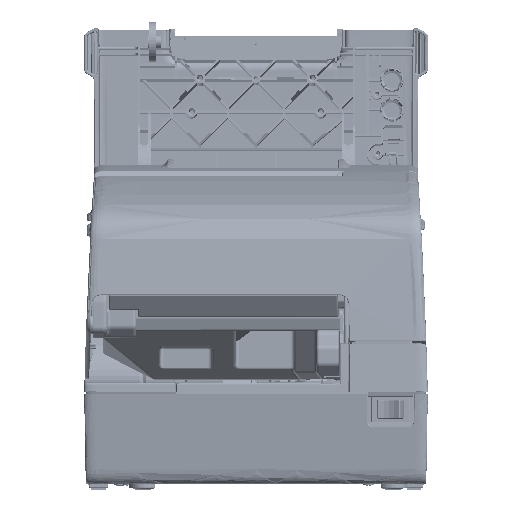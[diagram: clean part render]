
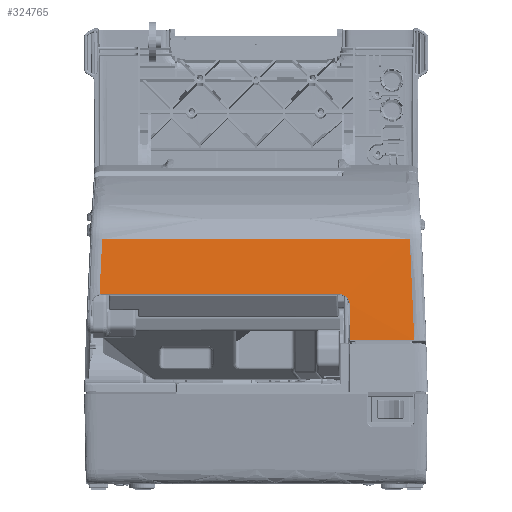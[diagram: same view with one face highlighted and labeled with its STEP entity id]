
A CAD part, top view. The second image highlights one B-rep face of the part: STEP entity #324765.
In plain terms, the highlighted cylindrical face has radius 850 mm (diameter 1700 mm), a partial arc.
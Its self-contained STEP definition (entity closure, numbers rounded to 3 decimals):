
#304977=DIRECTION('',(1.,0.,0.));
#304978=VECTOR('',#304977,34.667);
#304979=CARTESIAN_POINT('',(5.791,-51.41,
99.417));
#304980=LINE('',#304979,#304978);
#304981=CARTESIAN_POINT('',(5.791,-51.41,
99.417));
#304982=CARTESIAN_POINT('',(5.753,-49.235,
99.244));
#304983=CARTESIAN_POINT('',(5.678,-44.886,
98.882));
#304984=CARTESIAN_POINT('',(5.564,-38.367,
98.289));
#304985=CARTESIAN_POINT('',(5.488,-34.024,
97.86));
#304986=CARTESIAN_POINT('',(5.45,-31.853,
97.637));
#304988=CARTESIAN_POINT('',(5.45,-31.853,
97.637));
#304989=CARTESIAN_POINT('',(5.449,-31.767,
97.628));
#304990=CARTESIAN_POINT('',(5.442,-31.594,
97.611));
#304991=CARTESIAN_POINT('',(5.419,-31.335,
97.584));
#304992=CARTESIAN_POINT('',(5.384,-31.077,
97.557));
#304993=CARTESIAN_POINT('',(5.336,-30.821,
97.531));
#304994=CARTESIAN_POINT('',(5.277,-30.568,
97.504));
#304995=CARTESIAN_POINT('',(5.206,-30.318,
97.478));
#304996=CARTESIAN_POINT('',(5.123,-30.071,
97.453));
#304997=CARTESIAN_POINT('',(5.029,-29.829,
97.427));
#304998=CARTESIAN_POINT('',(4.923,-29.592,
97.402));
#304999=CARTESIAN_POINT('',(4.806,-29.36,
97.378));
#305000=CARTESIAN_POINT('',(4.679,-29.133,
97.354));
#305001=CARTESIAN_POINT('',(4.541,-28.913,
97.33));
#305002=CARTESIAN_POINT('',(4.393,-28.7,
97.308));
#305003=CARTESIAN_POINT('',(4.235,-28.494,
97.286));
#305004=CARTESIAN_POINT('',(4.068,-28.296,
97.265));
#305005=CARTESIAN_POINT('',(3.891,-28.107,
97.244));
#305006=CARTESIAN_POINT('',(3.706,-27.925,
97.225));
#305007=CARTESIAN_POINT('',(3.513,-27.753,
97.206));
#305008=CARTESIAN_POINT('',(3.312,-27.59,
97.189));
#305009=CARTESIAN_POINT('',(3.103,-27.437,
97.172));
#305010=CARTESIAN_POINT('',(2.888,-27.293,
97.157));
#305011=CARTESIAN_POINT('',(2.666,-27.161,
97.142));
#305012=CARTESIAN_POINT('',(2.438,-27.038,
97.129));
#305013=CARTESIAN_POINT('',(2.205,-26.927,
97.117));
#305014=CARTESIAN_POINT('',(1.967,-26.827,
97.106));
#305015=CARTESIAN_POINT('',(1.724,-26.738,
97.097));
#305016=CARTESIAN_POINT('',(1.478,-26.66,
97.088));
#305017=CARTESIAN_POINT('',(1.229,-26.594,
97.081));
#305018=CARTESIAN_POINT('',(0.976,-26.54,
97.075));
#305019=CARTESIAN_POINT('',(0.721,-26.498,
97.07));
#305020=CARTESIAN_POINT('',(0.465,-26.468,
97.067));
#305021=CARTESIAN_POINT('',(0.208,-26.45,
97.065));
#305022=CARTESIAN_POINT('',(0.037,-26.446,
97.065));
#305023=CARTESIAN_POINT('',(-0.049,-26.446,
97.065));
#305025=DIRECTION('',(-1.,0.,0.));
#305026=VECTOR('',#305025,129.068);
#305027=CARTESIAN_POINT('',(-0.049,-26.446,
97.065));
#305028=LINE('',#305027,#305026);
#305029=CARTESIAN_POINT('',(-129.117,-26.446,
97.065));
#305030=CARTESIAN_POINT('',(-129.182,-26.446,
97.065));
#305031=CARTESIAN_POINT('',(-129.31,-26.448,
97.065));
#305032=CARTESIAN_POINT('',(-129.503,-26.458,
97.066));
#305033=CARTESIAN_POINT('',(-129.694,-26.475,
97.068));
#305034=CARTESIAN_POINT('',(-129.822,-26.491,
97.07));
#305035=CARTESIAN_POINT('',(-129.885,-26.5,
97.071));
#305037=DIRECTION('',(-1.,0.,0.));
#305038=VECTOR('',#305037,166.507);
#305039=CARTESIAN_POINT('',(38.053,3.2,
93.302));
#305040=LINE('',#305039,#305038);
#307405=CARTESIAN_POINT('',(38.053,3.2,
93.302));
#307406=CARTESIAN_POINT('',(38.193,0.583,
93.681));
#307407=CARTESIAN_POINT('',(38.464,-4.655,
94.414));
#307408=CARTESIAN_POINT('',(38.852,-12.521,
95.441));
#307409=CARTESIAN_POINT('',(39.218,-20.394,
96.395));
#307410=CARTESIAN_POINT('',(39.565,-28.274,
97.275));
#307411=CARTESIAN_POINT('',(39.891,-36.161,
98.081));
#307412=CARTESIAN_POINT('',(40.189,-43.874,
98.796));
#307413=CARTESIAN_POINT('',(40.373,-48.958,
99.222));
#307414=CARTESIAN_POINT('',(40.459,-51.41,
99.417));
#307433=CARTESIAN_POINT('',(-128.453,3.2,
93.302));
#307434=CARTESIAN_POINT('',(-128.593,0.583,
93.681));
#307435=CARTESIAN_POINT('',(-128.864,-4.655,
94.414));
#307436=CARTESIAN_POINT('',(-129.252,-12.521,
95.441));
#307437=CARTESIAN_POINT('',(-129.591,-19.802,
96.323));
#307438=CARTESIAN_POINT('',(-129.797,-24.464,
96.849));
#307439=CARTESIAN_POINT('',(-129.885,-26.5,
97.071));
#319414=CARTESIAN_POINT('',(38.053,3.2,
93.302));
#319415=CARTESIAN_POINT('',(-128.453,3.2,
93.302));
#319416=VERTEX_POINT('',#319414);
#319417=VERTEX_POINT('',#319415);
#319608=VERTEX_POINT('',#307439);
#319616=CARTESIAN_POINT('',(5.791,-51.41,
99.417));
#319617=CARTESIAN_POINT('',(40.459,-51.41,
99.417));
#319618=VERTEX_POINT('',#319616);
#319619=VERTEX_POINT('',#319617);
#319983=VERTEX_POINT('',#305029);
#319986=CARTESIAN_POINT('',(-0.049,-26.446,
97.065));
#319987=VERTEX_POINT('',#319986);
#321314=VERTEX_POINT('',#304988);
#324742=CARTESIAN_POINT('',(-148.2,-118.644,-747.92));
#324743=DIRECTION('',(1.,0.,0.));
#324744=DIRECTION('',(0.,0.,-1.));
#324745=AXIS2_PLACEMENT_3D('',#324742,#324743,#324744);
#324746=CYLINDRICAL_SURFACE('',#324745,850.);
#324748=ORIENTED_EDGE('',*,*,#324747,.F.);
#324750=ORIENTED_EDGE('',*,*,#324749,.T.);
#324752=ORIENTED_EDGE('',*,*,#324751,.T.);
#324754=ORIENTED_EDGE('',*,*,#324753,.T.);
#324756=ORIENTED_EDGE('',*,*,#324755,.T.);
#324758=ORIENTED_EDGE('',*,*,#324757,.F.);
#324760=ORIENTED_EDGE('',*,*,#324759,.F.);
#324762=ORIENTED_EDGE('',*,*,#324761,.T.);
#324763=EDGE_LOOP('',(#324748,#324750,#324752,#324754,#324756,#324758,#324760,
#324762));
#324764=FACE_OUTER_BOUND('',#324763,.F.);
#304987=B_SPLINE_CURVE_WITH_KNOTS('',3,(#304981,#304982,#304983,#304984,#304985,
#304986),.UNSPECIFIED.,.F.,.F.,(4,1,1,4),(0.,0.333,
0.667,1.),.UNSPECIFIED.);
#305024=B_SPLINE_CURVE_WITH_KNOTS('',3,(#304988,#304989,#304990,#304991,#304992,
#304993,#304994,#304995,#304996,#304997,#304998,#304999,#305000,#305001,#305002,
#305003,#305004,#305005,#305006,#305007,#305008,#305009,#305010,#305011,#305012,
#305013,#305014,#305015,#305016,#305017,#305018,#305019,#305020,#305021,#305022,
#305023),.UNSPECIFIED.,.F.,.F.,(4,1,1,1,1,1,1,1,1,1,1,1,1,1,1,1,1,1,1,1,1,1,1,1,
1,1,1,1,1,1,1,1,1,4),(0.,0.03,0.061,
0.091,0.121,0.152,0.182,
0.212,0.242,0.273,0.303,
0.333,0.364,0.394,0.424,
0.455,0.485,0.515,0.545,
0.576,0.606,0.636,0.667,
0.697,0.727,0.758,0.788,
0.818,0.848,0.879,0.909,
0.939,0.97,1.),.UNSPECIFIED.);
#305036=B_SPLINE_CURVE_WITH_KNOTS('',3,(#305029,#305030,#305031,#305032,#305033,
#305034,#305035),.UNSPECIFIED.,.F.,.F.,(4,1,1,1,4),(0.,0.25,0.5,0.75,
1.),.UNSPECIFIED.);
#307415=B_SPLINE_CURVE_WITH_KNOTS('',3,(#307405,#307406,#307407,#307408,#307409,
#307410,#307411,#307412,#307413,#307414),.UNSPECIFIED.,.F.,.F.,(4,1,1,1,1,1,1,
4),(0.,0.144,0.289,0.433,
0.577,0.721,0.866,1.),.UNSPECIFIED.);
#307440=B_SPLINE_CURVE_WITH_KNOTS('',3,(#307433,#307434,#307435,#307436,#307437,
#307438,#307439),.UNSPECIFIED.,.F.,.F.,(4,1,1,1,4),(0.,0.265,
0.53,0.795,1.),.UNSPECIFIED.);
#324747=EDGE_CURVE('',#319618,#319619,#304980,.T.);
#324749=EDGE_CURVE('',#319618,#321314,#304987,.T.);
#324751=EDGE_CURVE('',#321314,#319987,#305024,.T.);
#324753=EDGE_CURVE('',#319987,#319983,#305028,.T.);
#324755=EDGE_CURVE('',#319983,#319608,#305036,.T.);
#324757=EDGE_CURVE('',#319417,#319608,#307440,.T.);
#324759=EDGE_CURVE('',#319416,#319417,#305040,.T.);
#324761=EDGE_CURVE('',#319416,#319619,#307415,.T.);
#324765=ADVANCED_FACE('',(#324764),#324746,.T.);
